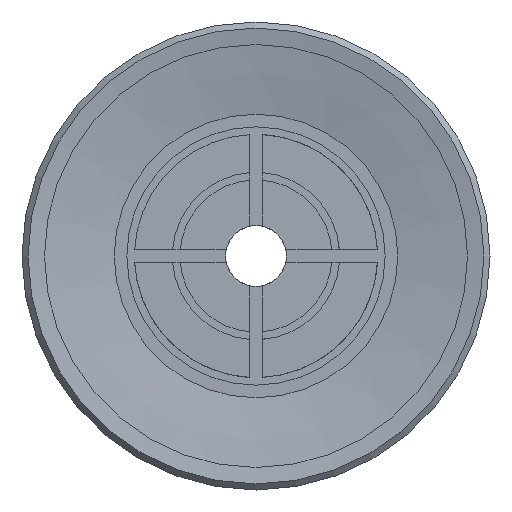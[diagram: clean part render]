
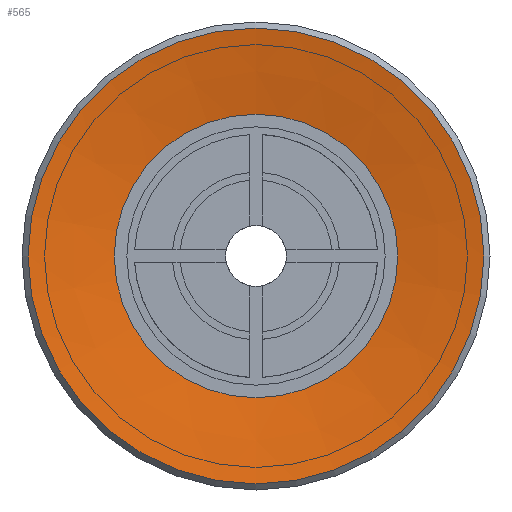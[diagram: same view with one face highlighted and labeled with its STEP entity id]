
A CAD part, front view. The second image highlights one B-rep face of the part: STEP entity #565.
In plain terms, the highlighted conical face has half-angle 80 degrees and reference radius 4.664 mm.
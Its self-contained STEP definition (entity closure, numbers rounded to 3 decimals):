
#565=ADVANCED_FACE('',(#869,#870),#871,.F.);
#869=FACE_BOUND('',#1234,.T.);
#870=FACE_OUTER_BOUND('',#1235,.T.);
#871=CONICAL_SURFACE('',#1236,4.664,1.396);
#1234=EDGE_LOOP('',(#2098));
#1235=EDGE_LOOP('',(#2099));
#1236=AXIS2_PLACEMENT_3D('',#2100,#2101,#2102);
#2098=ORIENTED_EDGE('',*,*,#2569,.F.);
#2099=ORIENTED_EDGE('',*,*,#2565,.T.);
#2100=CARTESIAN_POINT('',(0.0,0.5,0.0));
#2101=DIRECTION('',(-0.0,-1.0,0.));
#2102=DIRECTION('',(0.0,0.,-1.0));
#2565=EDGE_CURVE('',#2998,#2998,#2999,.T.);
#2569=EDGE_CURVE('',#3005,#3005,#3006,.T.);
#2998=VERTEX_POINT('',#3889);
#2999=CIRCLE('',#3890,7.5);
#3005=VERTEX_POINT('',#3914);
#3006=CIRCLE('',#3915,4.664);
#3889=CARTESIAN_POINT('',(0.0,0.,-7.5));
#3890=AXIS2_PLACEMENT_3D('',#4373,#4374,#4375);
#3914=CARTESIAN_POINT('',(0.0,0.5,-4.664));
#3915=AXIS2_PLACEMENT_3D('',#4380,#4381,#4382);
#4373=CARTESIAN_POINT('',(0.0,0.0,0.0));
#4374=DIRECTION('',(0.0,-1.0,0.));
#4375=DIRECTION('',(0.0,0.,-1.0));
#4380=CARTESIAN_POINT('',(0.0,0.5,0.0));
#4381=DIRECTION('',(0.0,-1.0,0.));
#4382=DIRECTION('',(0.0,0.,-1.0));
